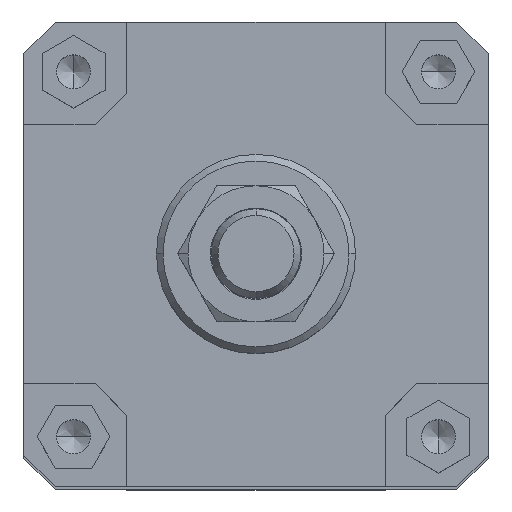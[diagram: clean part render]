
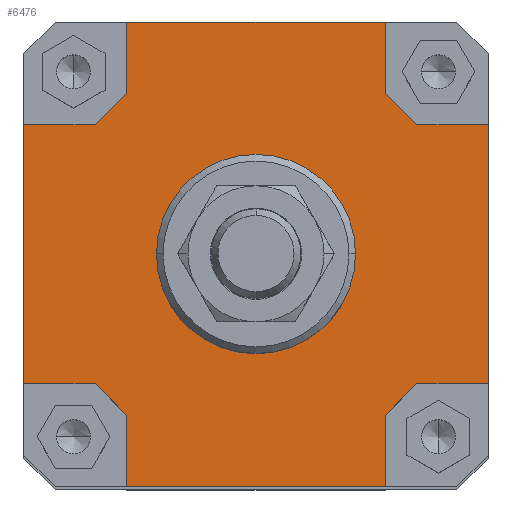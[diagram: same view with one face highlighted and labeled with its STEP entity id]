
A CAD part, top view. The second image highlights one B-rep face of the part: STEP entity #6476.
In plain terms, the highlighted planar face has unit normal (0, 0, 1).
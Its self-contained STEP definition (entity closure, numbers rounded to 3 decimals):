
#2320=CARTESIAN_POINT('',(-30.0,0.,305.0));
#2321=VERTEX_POINT('',#2320);
#2330=CARTESIAN_POINT('',(30.0,0.,305.0));
#2331=VERTEX_POINT('',#2330);
#2332=CARTESIAN_POINT('',(0.0,0.0,305.0));
#2333=DIRECTION('',(0.0,0.0,-1.0));
#2334=DIRECTION('',(-1.0,0.0,0.0));
#2335=AXIS2_PLACEMENT_3D('',#2332,#2333,#2334);
#2336=CIRCLE('',#2335,30.0);
#2337=EDGE_CURVE('',#2331,#2321,#2336,.T.);
#2557=CARTESIAN_POINT('',(0.0,0.0,305.0));
#2558=DIRECTION('',(0.0,0.0,-1.0));
#2559=DIRECTION('',(-1.0,0.0,0.0));
#2560=AXIS2_PLACEMENT_3D('',#2557,#2558,#2559);
#2561=CIRCLE('',#2560,30.0);
#2562=EDGE_CURVE('',#2321,#2331,#2561,.T.);
#2641=CARTESIAN_POINT('',(-39.,70.,305.0));
#2642=VERTEX_POINT('',#2641);
#2649=CARTESIAN_POINT('',(39.,70.,305.0));
#2650=VERTEX_POINT('',#2649);
#2651=CARTESIAN_POINT('',(-39.,70.,305.0));
#2652=DIRECTION('',(1.0,0.0,0.0));
#2653=VECTOR('',#2652,78.);
#2654=LINE('',#2651,#2653);
#2655=EDGE_CURVE('',#2642,#2650,#2654,.T.);
#3100=CARTESIAN_POINT('',(70.,39.,305.0));
#3101=VERTEX_POINT('',#3100);
#3108=CARTESIAN_POINT('',(70.,-39.0,305.0));
#3109=VERTEX_POINT('',#3108);
#3110=CARTESIAN_POINT('',(70.,39.,305.0));
#3111=DIRECTION('',(0.0,-1.0,0.0));
#3112=VECTOR('',#3111,78.);
#3113=LINE('',#3110,#3112);
#3114=EDGE_CURVE('',#3101,#3109,#3113,.T.);
#3181=CARTESIAN_POINT('',(-39.,-48.5,305.0));
#3182=VERTEX_POINT('',#3181);
#3189=CARTESIAN_POINT('',(-48.5,-39.,305.0));
#3190=VERTEX_POINT('',#3189);
#3191=CARTESIAN_POINT('',(-39.,-48.5,305.0));
#3192=DIRECTION('',(-0.707,0.707,0.0));
#3193=VECTOR('',#3192,13.435);
#3194=LINE('',#3191,#3193);
#3195=EDGE_CURVE('',#3182,#3190,#3194,.T.);
#3309=CARTESIAN_POINT('',(-70.,-39.,305.0));
#3310=VERTEX_POINT('',#3309);
#3311=CARTESIAN_POINT('',(-70.,-39.,305.0));
#3312=DIRECTION('',(1.0,0.0,0.0));
#3313=VECTOR('',#3312,21.5);
#3314=LINE('',#3311,#3313);
#3315=EDGE_CURVE('',#3310,#3190,#3314,.T.);
#3342=CARTESIAN_POINT('',(48.5,-39.,305.0));
#3343=VERTEX_POINT('',#3342);
#3350=CARTESIAN_POINT('',(39.,-48.5,305.0));
#3351=VERTEX_POINT('',#3350);
#3352=CARTESIAN_POINT('',(48.5,-39.,305.0));
#3353=DIRECTION('',(-0.707,-0.707,0.0));
#3354=VECTOR('',#3353,13.435);
#3355=LINE('',#3352,#3354);
#3356=EDGE_CURVE('',#3343,#3351,#3355,.T.);
#3454=CARTESIAN_POINT('',(39.,-70.,305.0));
#3455=VERTEX_POINT('',#3454);
#3456=CARTESIAN_POINT('',(39.,-70.,305.0));
#3457=DIRECTION('',(0.0,1.0,0.0));
#3458=VECTOR('',#3457,21.5);
#3459=LINE('',#3456,#3458);
#3460=EDGE_CURVE('',#3455,#3351,#3459,.T.);
#3487=CARTESIAN_POINT('',(39.,48.5,305.0));
#3488=VERTEX_POINT('',#3487);
#3495=CARTESIAN_POINT('',(48.5,39.,305.0));
#3496=VERTEX_POINT('',#3495);
#3497=CARTESIAN_POINT('',(39.,48.5,305.0));
#3498=DIRECTION('',(0.707,-0.707,0.0));
#3499=VECTOR('',#3498,13.435);
#3500=LINE('',#3497,#3499);
#3501=EDGE_CURVE('',#3488,#3496,#3500,.T.);
#3592=CARTESIAN_POINT('',(70.,39.,305.0));
#3593=DIRECTION('',(-1.0,0.0,0.0));
#3594=VECTOR('',#3593,21.5);
#3595=LINE('',#3592,#3594);
#3596=EDGE_CURVE('',#3101,#3496,#3595,.T.);
#3609=CARTESIAN_POINT('',(-48.5,39.,305.0));
#3610=VERTEX_POINT('',#3609);
#3617=CARTESIAN_POINT('',(-39.,48.5,305.0));
#3618=VERTEX_POINT('',#3617);
#3619=CARTESIAN_POINT('',(-48.5,39.,305.0));
#3620=DIRECTION('',(0.707,0.707,0.0));
#3621=VECTOR('',#3620,13.435);
#3622=LINE('',#3619,#3621);
#3623=EDGE_CURVE('',#3610,#3618,#3622,.T.);
#3640=CARTESIAN_POINT('',(-39.,70.,305.0));
#3641=DIRECTION('',(0.0,-1.0,0.0));
#3642=VECTOR('',#3641,21.5);
#3643=LINE('',#3640,#3642);
#3644=EDGE_CURVE('',#2642,#3618,#3643,.T.);
#4674=CARTESIAN_POINT('',(-70.,39.0,305.0));
#4675=VERTEX_POINT('',#4674);
#4676=CARTESIAN_POINT('',(-70.,-39.,305.0));
#4677=DIRECTION('',(0.0,1.0,0.0));
#4678=VECTOR('',#4677,78.0);
#4679=LINE('',#4676,#4678);
#4680=EDGE_CURVE('',#3310,#4675,#4679,.T.);
#6070=CARTESIAN_POINT('',(-48.5,39.,305.0));
#6071=DIRECTION('',(-1.0,0.0,0.0));
#6072=VECTOR('',#6071,21.5);
#6073=LINE('',#6070,#6072);
#6074=EDGE_CURVE('',#3610,#4675,#6073,.T.);
#6231=CARTESIAN_POINT('',(39.,48.5,305.0));
#6232=DIRECTION('',(0.0,1.0,0.0));
#6233=VECTOR('',#6232,21.5);
#6234=LINE('',#6231,#6233);
#6235=EDGE_CURVE('',#3488,#2650,#6234,.T.);
#6392=CARTESIAN_POINT('',(48.5,-39.,305.0));
#6393=DIRECTION('',(1.0,0.0,0.0));
#6394=VECTOR('',#6393,21.5);
#6395=LINE('',#6392,#6394);
#6396=EDGE_CURVE('',#3343,#3109,#6395,.T.);
#6437=CARTESIAN_POINT('',(0.,0.,305.0));
#6438=DIRECTION('',(0.0,0.0,1.0));
#6439=DIRECTION('',(1.0,0.0,0.0));
#6440=AXIS2_PLACEMENT_3D('',#6437,#6438,#6439);
#6441=PLANE('',#6440);
#6442=ORIENTED_EDGE('',*,*,#3644,.T.);
#6443=ORIENTED_EDGE('',*,*,#3623,.F.);
#6444=ORIENTED_EDGE('',*,*,#6074,.T.);
#6445=ORIENTED_EDGE('',*,*,#4680,.F.);
#6446=ORIENTED_EDGE('',*,*,#3315,.T.);
#6447=ORIENTED_EDGE('',*,*,#3195,.F.);
#6448=CARTESIAN_POINT('',(-39.,-70.,305.0));
#6449=VERTEX_POINT('',#6448);
#6450=CARTESIAN_POINT('',(-39.,-48.5,305.0));
#6451=DIRECTION('',(0.0,-1.0,0.0));
#6452=VECTOR('',#6451,21.5);
#6453=LINE('',#6450,#6452);
#6454=EDGE_CURVE('',#3182,#6449,#6453,.T.);
#6455=ORIENTED_EDGE('',*,*,#6454,.T.);
#6456=CARTESIAN_POINT('',(39.,-70.,305.0));
#6457=DIRECTION('',(-1.0,0.0,0.0));
#6458=VECTOR('',#6457,78.);
#6459=LINE('',#6456,#6458);
#6460=EDGE_CURVE('',#3455,#6449,#6459,.T.);
#6461=ORIENTED_EDGE('',*,*,#6460,.F.);
#6462=ORIENTED_EDGE('',*,*,#3460,.T.);
#6463=ORIENTED_EDGE('',*,*,#3356,.F.);
#6464=ORIENTED_EDGE('',*,*,#6396,.T.);
#6465=ORIENTED_EDGE('',*,*,#3114,.F.);
#6466=ORIENTED_EDGE('',*,*,#3596,.T.);
#6467=ORIENTED_EDGE('',*,*,#3501,.F.);
#6468=ORIENTED_EDGE('',*,*,#6235,.T.);
#6469=ORIENTED_EDGE('',*,*,#2655,.F.);
#6470=EDGE_LOOP('',(#6442,#6443,#6444,#6445,#6446,#6447,#6455,#6461,#6462,#6463,#6464,#6465,#6466,#6467,#6468,#6469));
#6471=FACE_OUTER_BOUND('',#6470,.T.);
#6472=ORIENTED_EDGE('',*,*,#2337,.T.);
#6473=ORIENTED_EDGE('',*,*,#2562,.T.);
#6474=EDGE_LOOP('',(#6472,#6473));
#6475=FACE_BOUND('',#6474,.T.);
#6476=ADVANCED_FACE('',(#6471,#6475),#6441,.T.);
